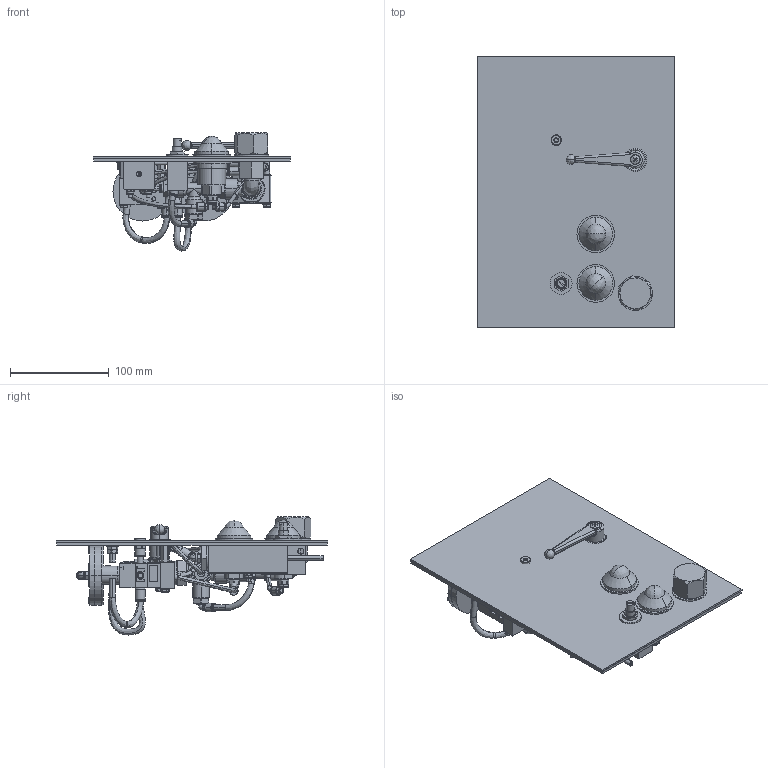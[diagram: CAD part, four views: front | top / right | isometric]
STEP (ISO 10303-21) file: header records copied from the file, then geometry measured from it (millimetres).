
FILE_DESCRIPTION (( 'STEP AP203' ), '1' );
FILE_NAME ('plcf1yz.STEP', '2013-12-09T16:46:27', ( 'User' ), ( 'Pentair Inc' ), 'SwSTEP 2.0', 'SolidWorks 2010', '' );
FILE_SCHEMA (( 'CONFIG_CONTROL_DESIGN' ));
Products named in the file (1): plcf1yz
Bounding box: 200 x 275 x 119.4 mm (x, y, z)
Volume: 824983 mm3; surface area: 442912.1 mm2
Topology: 135 solids, 140 shells, 3128 faces, 7549 edges, 4760 vertices
Faces by surface type: plane 1294, cylinder 1058, bspline 413, cone 363
Entity records: 106475 total; most frequent: CARTESIAN_POINT 35431, ORIENTED_EDGE 14770, DIRECTION 14622, EDGE_CURVE 7385, AXIS2_PLACEMENT_3D 5773, VERTEX_POINT 4760, EDGE_LOOP 3545, FACE_OUTER_BOUND 3128
